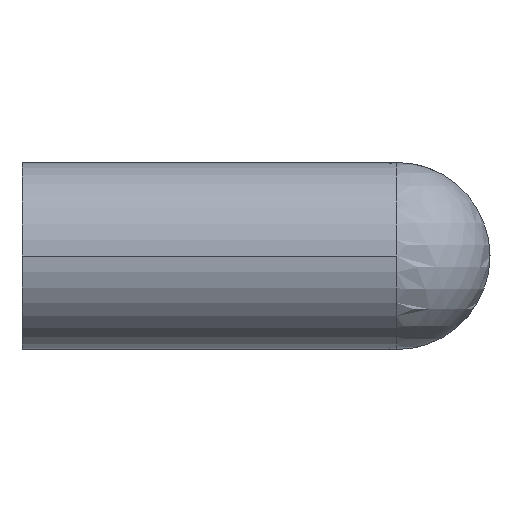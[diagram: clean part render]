
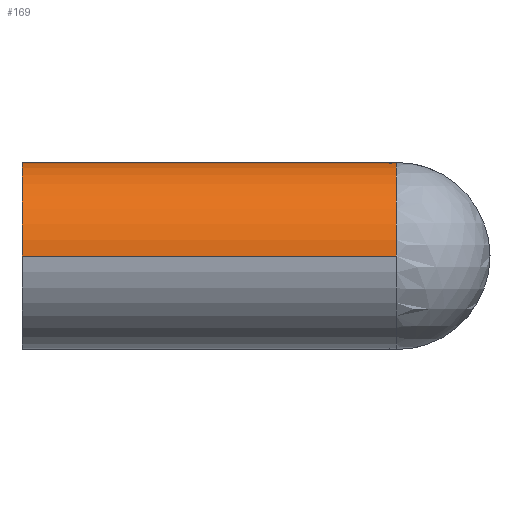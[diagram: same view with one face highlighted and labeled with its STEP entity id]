
A CAD part, left-side view. The second image highlights one B-rep face of the part: STEP entity #169.
In plain terms, the highlighted cylindrical face has radius 6 mm (diameter 12 mm), a partial arc.
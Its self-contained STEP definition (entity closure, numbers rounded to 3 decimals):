
#103 = EDGE_CURVE( '', #187, #183, #261, .T. );
#133 = VERTEX_POINT( '', #295 );
#153 = VERTEX_POINT( '', #317 );
#169 = ADVANCED_FACE( '', ( #334 ), #335, .T. );
#171 = EDGE_CURVE( '', #183, #209, #337, .T. );
#183 = VERTEX_POINT( '', #350 );
#187 = VERTEX_POINT( '', #354 );
#193 = EDGE_CURVE( '', #209, #153, #362, .T. );
#205 = EDGE_CURVE( '', #187, #133, #375, .T. );
#209 = VERTEX_POINT( '', #379 );
#221 = EDGE_CURVE( '', #133, #153, #393, .T. );
#261 = LINE( '', #426, #427 );
#295 = CARTESIAN_POINT( '', ( 0., -24., 6. ) );
#317 = CARTESIAN_POINT( '', ( 6., -18., 0. ) );
#334 = FACE_OUTER_BOUND( '', #520, .T. );
#335 = CYLINDRICAL_SURFACE( '', #521, 6. );
#337 = CIRCLE( '', #524, 6. );
#350 = CARTESIAN_POINT( '', ( -6., 0., 0. ) );
#354 = CARTESIAN_POINT( '', ( -6., -24., 0. ) );
#362 = LINE( '', #555, #556 );
#375 = CIRCLE( '', #570, 6. );
#379 = CARTESIAN_POINT( '', ( 6., 0., 0. ) );
#393 = ELLIPSE( '', #591, 8.485, 6. );
#426 = CARTESIAN_POINT( '', ( -6., 0., 0. ) );
#427 = VECTOR( '', #639, 1. );
#520 = EDGE_LOOP( '', ( #732, #733, #734, #735, #736 ) );
#521 = AXIS2_PLACEMENT_3D( '', #737, #738, #739 );
#524 = AXIS2_PLACEMENT_3D( '', #740, #741, #742 );
#555 = CARTESIAN_POINT( '', ( 6., 0., 0. ) );
#556 = VECTOR( '', #764, 1. );
#570 = AXIS2_PLACEMENT_3D( '', #778, #779, #780 );
#591 = AXIS2_PLACEMENT_3D( '', #803, #804, #805 );
#639 = DIRECTION( '', ( 0., 1., 0. ) );
#732 = ORIENTED_EDGE( '', *, *, #193, .F. );
#733 = ORIENTED_EDGE( '', *, *, #171, .F. );
#734 = ORIENTED_EDGE( '', *, *, #103, .F. );
#735 = ORIENTED_EDGE( '', *, *, #205, .T. );
#736 = ORIENTED_EDGE( '', *, *, #221, .T. );
#737 = CARTESIAN_POINT( '', ( 0., 0., 0. ) );
#738 = DIRECTION( '', ( 0., 1., 0. ) );
#739 = DIRECTION( '', ( 1., 0., 0. ) );
#740 = CARTESIAN_POINT( '', ( 0., 0., 0. ) );
#741 = DIRECTION( '', ( 0., 1., 0. ) );
#742 = DIRECTION( '', ( 1., 0., 0. ) );
#764 = DIRECTION( '', ( 0., -1., 0. ) );
#778 = CARTESIAN_POINT( '', ( 0., -24., 0. ) );
#779 = DIRECTION( '', ( 0., 1., 0. ) );
#780 = DIRECTION( '', ( 1., 0., 0. ) );
#803 = CARTESIAN_POINT( '', ( 0., -24., 0. ) );
#804 = DIRECTION( '', ( -0.707, 0.707, 0. ) );
#805 = DIRECTION( '', ( 0.707, 0.707, 0. ) );
